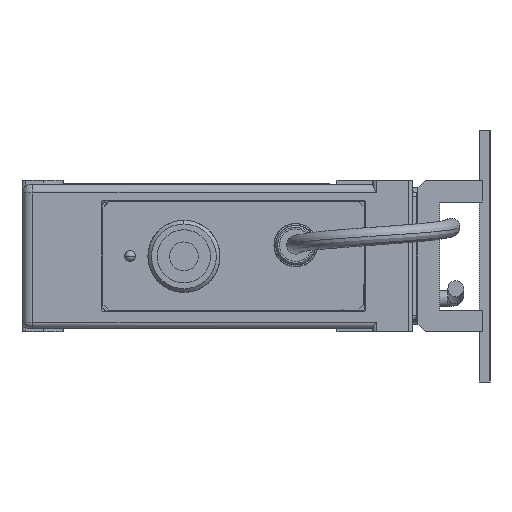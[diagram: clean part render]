
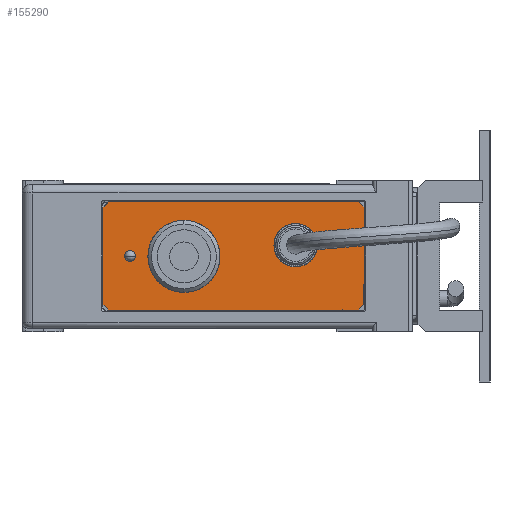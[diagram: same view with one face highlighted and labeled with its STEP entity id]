
A CAD part, left-side view. The second image highlights one B-rep face of the part: STEP entity #155290.
In plain terms, the highlighted planar face has unit normal (-1, 0, 0).
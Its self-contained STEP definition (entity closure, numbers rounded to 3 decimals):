
#154050=CARTESIAN_POINT('',(0.7,69.25,-20.95));
#154060=DIRECTION('',(-1.,0.,0.));
#154070=DIRECTION('',(0.,0.,1.));
#154080=AXIS2_PLACEMENT_3D('',#154050,#154060,#154070);
#154090=PLANE('',#154080);
#154100=CARTESIAN_POINT('',(0.7,260.364,
120.364));
#154110=DIRECTION('',(0.,0.707,
0.707));
#154120=VECTOR('',#154110,1.);
#154130=LINE('',#154100,#154120);
#154140=CARTESIAN_POINT('',(0.7,104.,-36.));
#154150=VERTEX_POINT('',#154140);
#154160=CARTESIAN_POINT('',(0.7,105.5,-34.5));
#154170=VERTEX_POINT('',#154160);
#154180=EDGE_CURVE('',#154150,#154170,#154130,.T.);
#154190=ORIENTED_EDGE('',*,*,#154180,.F.);
#154200=CARTESIAN_POINT('',(0.7,105.5,120.364));
#154210=DIRECTION('',(0.,0.,1.));
#154220=VECTOR('',#154210,1.);
#154230=LINE('',#154200,#154220);
#154240=CARTESIAN_POINT('',(0.7,105.5,-7.4));
#154250=VERTEX_POINT('',#154240);
#154260=EDGE_CURVE('',#154170,#154250,#154230,.T.);
#154270=ORIENTED_EDGE('',*,*,#154260,.F.);
#154280=CARTESIAN_POINT('',(0.7,-22.264,
120.364));
#154290=DIRECTION('',(0.,0.707,
-0.707));
#154300=VECTOR('',#154290,1.);
#154310=LINE('',#154280,#154300);
#154320=CARTESIAN_POINT('',(0.7,104.,-5.9));
#154330=VERTEX_POINT('',#154320);
#154340=EDGE_CURVE('',#154330,#154250,#154310,.T.);
#154350=ORIENTED_EDGE('',*,*,#154340,.T.);
#154360=CARTESIAN_POINT('',(0.7,259.579,
-5.9));
#154370=DIRECTION('',(0.,-1.,0.));
#154380=VECTOR('',#154370,1.);
#154390=LINE('',#154360,#154380);
#154400=CARTESIAN_POINT('',(0.7,34.5,
-5.9));
#154410=VERTEX_POINT('',#154400);
#154420=EDGE_CURVE('',#154330,#154410,#154390,.T.);
#154430=ORIENTED_EDGE('',*,*,#154420,.F.);
#154440=CARTESIAN_POINT('',(0.7,160.764,
120.364));
#154450=DIRECTION('',(0.,0.707,
0.707));
#154460=VECTOR('',#154450,1.);
#154470=LINE('',#154440,#154460);
#154480=CARTESIAN_POINT('',(0.7,33.,
-7.4));
#154490=VERTEX_POINT('',#154480);
#154500=EDGE_CURVE('',#154490,#154410,#154470,.T.);
#154510=ORIENTED_EDGE('',*,*,#154500,.T.);
#154520=CARTESIAN_POINT('',(0.7,33.,
120.364));
#154530=DIRECTION('',(-0.,0.,-1.));
#154540=VECTOR('',#154530,1.);
#154550=LINE('',#154520,#154540);
#154560=CARTESIAN_POINT('',(0.7,33.,-34.5));
#154570=VERTEX_POINT('',#154560);
#154580=EDGE_CURVE('',#154490,#154570,#154550,.T.);
#154590=ORIENTED_EDGE('',*,*,#154580,.F.);
#154600=CARTESIAN_POINT('',(0.7,-121.864,
120.364));
#154610=DIRECTION('',(0.,-0.707,
0.707));
#154620=VECTOR('',#154610,1.);
#154630=LINE('',#154600,#154620);
#154640=CARTESIAN_POINT('',(0.7,34.5,-36.));
#154650=VERTEX_POINT('',#154640);
#154660=EDGE_CURVE('',#154650,#154570,#154630,.T.);
#154670=ORIENTED_EDGE('',*,*,#154660,.T.);
#154680=CARTESIAN_POINT('',(0.7,259.579,-36.));
#154690=DIRECTION('',(0.,1.,0.));
#154700=VECTOR('',#154690,1.);
#154710=LINE('',#154680,#154700);
#154720=EDGE_CURVE('',#154650,#154150,#154710,.T.);
#154730=ORIENTED_EDGE('',*,*,#154720,.F.);
#154740=EDGE_LOOP('',(#154730,#154670,#154590,#154510,#154430,#154350,
#154270,#154190));
#154750=FACE_OUTER_BOUND('',#154740,.T.);
#154760=CARTESIAN_POINT('',(0.7,98.,-21.));
#154770=DIRECTION('',(1.,0.,0.));
#154780=DIRECTION('',(0.,1.,0.));
#154790=AXIS2_PLACEMENT_3D('',#154760,#154770,#154780);
#154800=CIRCLE('',#154790,1.5);
#154810=CARTESIAN_POINT('',(0.7,99.5,-21.));
#154820=VERTEX_POINT('',#154810);
#154830=CARTESIAN_POINT('',(0.7,96.5,-21.));
#154840=VERTEX_POINT('',#154830);
#154850=EDGE_CURVE('',#154820,#154840,#154800,.T.);
#154860=ORIENTED_EDGE('',*,*,#154850,.T.);
#154870=EDGE_CURVE('',#154840,#154820,#154800,.T.);
#154880=ORIENTED_EDGE('',*,*,#154870,.T.);
#154890=EDGE_LOOP('',(#154880,#154860));
#154900=FACE_BOUND('',#154890,.T.);
#154910=CARTESIAN_POINT('',(0.7,83.022,-21.1));
#154920=DIRECTION('',(-1.,0.,0.));
#154930=DIRECTION('',(0.,0.,-1.));
#154940=AXIS2_PLACEMENT_3D('',#154910,#154920,#154930);
#154950=CIRCLE('',#154940,10.);
#154960=CARTESIAN_POINT('',(0.7,89.91,-13.85));
#154970=VERTEX_POINT('',#154960);
#154980=CARTESIAN_POINT('',(0.7,83.022,-31.1));
#154990=VERTEX_POINT('',#154980);
#155000=EDGE_CURVE('',#154970,#154990,#154950,.T.);
#155010=ORIENTED_EDGE('',*,*,#155000,.F.);
#155020=CARTESIAN_POINT('',(0.7,83.022,-11.1));
#155030=VERTEX_POINT('',#155020);
#155040=EDGE_CURVE('',#154990,#155030,#154950,.T.);
#155050=ORIENTED_EDGE('',*,*,#155040,.F.);
#155060=EDGE_CURVE('',#155030,#154970,#154950,.T.);
#155070=ORIENTED_EDGE('',*,*,#155060,.F.);
#155080=EDGE_LOOP('',(#155070,#155050,#155010));
#155090=FACE_BOUND('',#155080,.T.);
#155100=CARTESIAN_POINT('',(0.7,52.,-18.));
#155110=DIRECTION('',(1.,0.,0.));
#155120=DIRECTION('',(0.,1.,0.));
#155130=AXIS2_PLACEMENT_3D('',#155100,#155110,#155120);
#155140=CIRCLE('',#155130,6.);
#155150=CARTESIAN_POINT('',(0.7,46.,-18.));
#155160=VERTEX_POINT('',#155150);
#155170=CARTESIAN_POINT('',(0.7,58.,-18.));
#155180=VERTEX_POINT('',#155170);
#155190=EDGE_CURVE('',#155160,#155180,#155140,.T.);
#155200=ORIENTED_EDGE('',*,*,#155190,.T.);
#155210=CARTESIAN_POINT('',(0.7,56.381,
-13.9));
#155220=VERTEX_POINT('',#155210);
#155230=EDGE_CURVE('',#155220,#155160,#155140,.T.);
#155240=ORIENTED_EDGE('',*,*,#155230,.T.);
#155250=EDGE_CURVE('',#155180,#155220,#155140,.T.);
#155260=ORIENTED_EDGE('',*,*,#155250,.T.);
#155270=EDGE_LOOP('',(#155260,#155240,#155200));
#155280=FACE_BOUND('',#155270,.T.);
#155290=ADVANCED_FACE('',(#154750,#154900,#155090,#155280),#154090,.T.);
